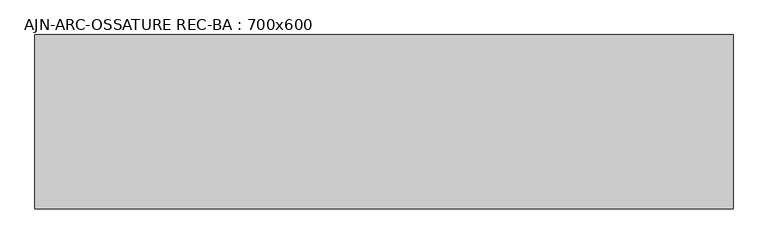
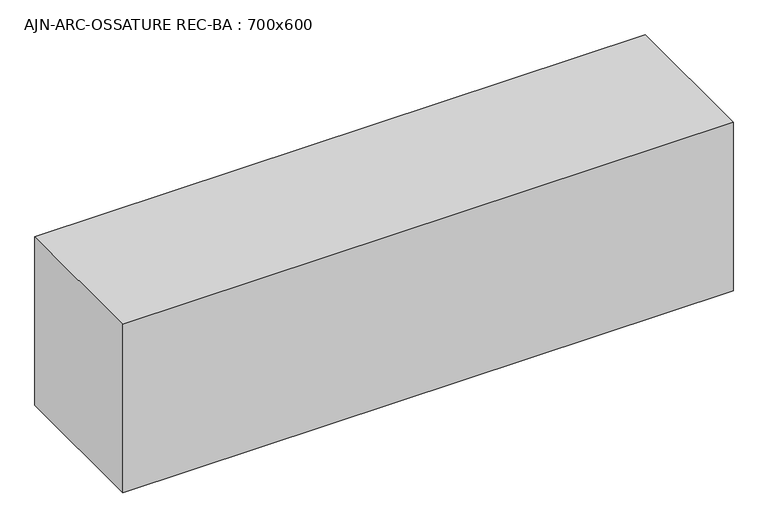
"""IFC4 building model written with IfcOpenShell, lengths in millimetres: beam geometry, AJN-ARC-OSSATURE REC-BA : 700x600."""

from ifc_helpers import new_model, si_unit, frame, origin, place, context, project, spatial, polyline, outline, extrude, source, transform, mapped, element, save


def ajn_arc_ossature_rec_ba_700x600_2fd1ddb7(model_context):
    return source(origin(), model_context, "Body", "SweptSolid", [
        extrude(outline(polyline([(1200.0, 300.0), (1200.0, -300.0), (-1200.0, -300.0), (-1200.0, 300.0), (1200.0, 300.0)])), frame((0.0, 0.0, -350.0), z_axis=(0.0, 0.0, 1.0), x_axis=(1.0, 0.0, 0.0)), (0.0, 0.0, 1.0), 700.0),
    ])


if __name__ == "__main__":
    model = new_model("IFC4")
    model_context = context("Model", 3, world=origin())
    ifc_project = project(units=[si_unit("LENGTHUNIT", "METRE", prefix="MILLI")], contexts=[model_context])
    site = spatial("IfcSite", under=ifc_project)
    building = spatial("IfcBuilding", under=site)
    placement = place(None, origin())
    ajn_arc_ossature_rec_ba_700x600_shape = ajn_arc_ossature_rec_ba_700x600_2fd1ddb7(model_context)
    element("IfcBeam", 1, ObjectType="AJN-ARC-OSSATURE REC-BA : 700x600", at=placement, inside=building, context=model_context, shape_type="MappedRepresentation", body=[
        mapped(ajn_arc_ossature_rec_ba_700x600_shape, transform((0.0, 0.0, 0.0), x_axis=(1.0, 0.0, 0.0), y_axis=(0.0, 1.0, 0.0), z_axis=(0.0, 0.0, 1.0))),
    ])
    save(model, "model.ifc")
